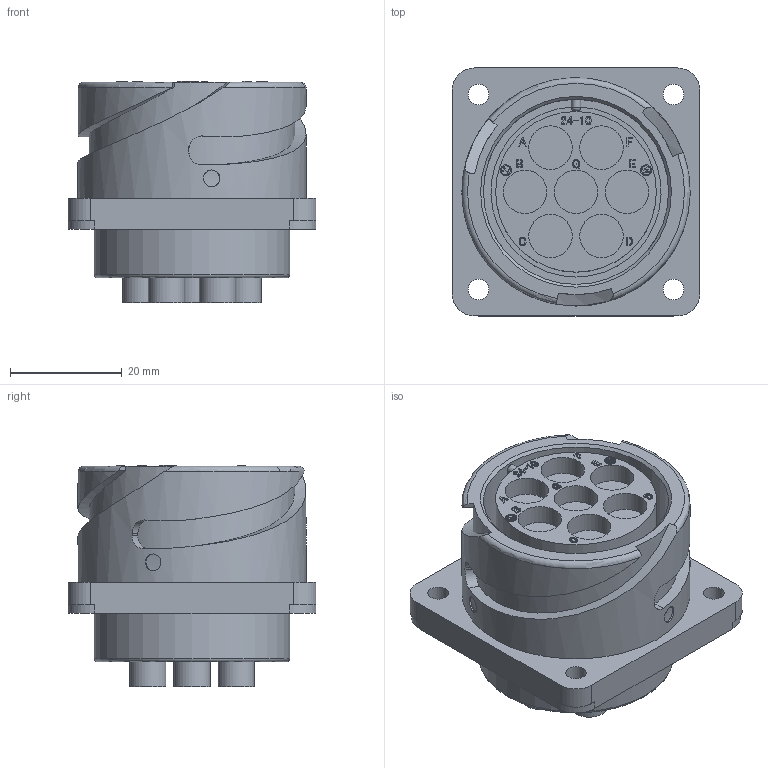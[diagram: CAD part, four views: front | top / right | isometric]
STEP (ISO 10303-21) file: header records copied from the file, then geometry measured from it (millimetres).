
FILE_DESCRIPTION (( 'STEP AP203' ), '1' );
FILE_NAME ('DCA3102R24-10S-D(R1).STEP', '2021-12-22T08:31:00', ( '' ), ( '' ), 'SwSTEP 2.0', 'SolidWorks 2018', '' );
FILE_SCHEMA (( 'CONFIG_CONTROL_DESIGN' ));
Length unit declared in the file: millimetre
Products named in the file (1): DCA3102R24-10S-D(R1)
Bounding box: 44.45 x 44.45 x 39.7 mm (x, y, z)
Volume: 39228.5 mm3; surface area: 15594.8 mm2
Topology: 1 solids, 1 shells, 603 faces, 1575 edges, 1048 vertices
Faces by surface type: plane 326, bspline 189, cylinder 67, cone 16, torus 5
Full cylindrical faces by diameter (mm): 1.6 x4, 2 x4, 3.7 x4, 3.73 x4, 5 x7, 6.5 x7, 7.8 x14, 28.8 x1, 31 x1, 33.2 x1, 35 x1, 40.9 x1
Entity records: 25267 total; most frequent: CARTESIAN_POINT 12016, ORIENTED_EDGE 2954, DIRECTION 2043, EDGE_CURVE 1477, VERTEX_POINT 1019, VECTOR 929, LINE 929, EDGE_LOOP 754
